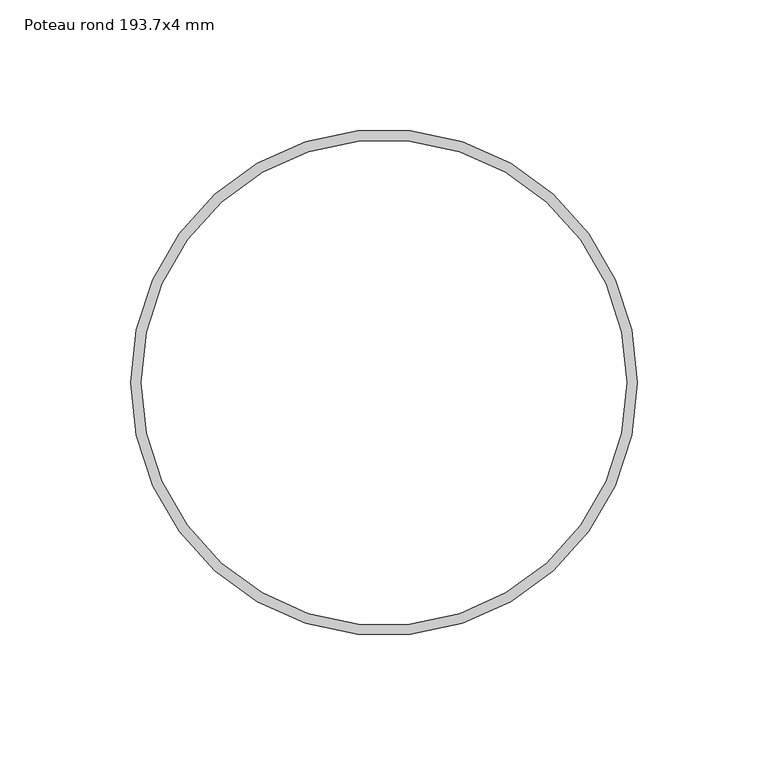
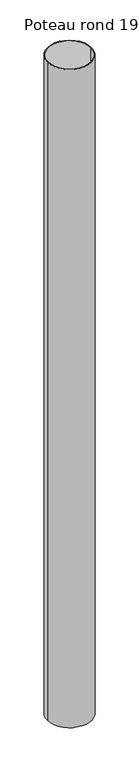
"""IFC4 building model written with IfcOpenShell, lengths in millimetres: column geometry, Poteau RO (EN 10219-2) : Poteau rond 193.7x4 mm."""

from ifc_helpers import new_model, si_unit, point, frame, origin, origin_2d, place, context, project, spatial, circle_curve, trimmed, segment, composite_curve, outline, extrude, source, transform, mapped, element, save


def poteau_rond_193_7x4_mm_9448209f(model_context):
    return source(origin(), model_context, "Body", "SweptSolid", [
        extrude(outline(composite_curve([segment(trimmed(circle_curve(origin_2d(), 96.85), [point((-96.85, 0.0))], [point((96.85, 0.0))], False, "CARTESIAN"), True, "CONTINUOUS"), segment(trimmed(circle_curve(origin_2d(), 96.85), [point((96.85, 0.0))], [point((-96.85, 0.0))], False, "CARTESIAN"), True, "CONTINUOUS")], self_intersect=False), holes=[composite_curve([segment(trimmed(circle_curve(origin_2d(), 92.85), [point((-92.85, 0.0))], [point((92.85, 0.0))], True, "CARTESIAN"), True, "CONTINUOUS"), segment(trimmed(circle_curve(origin_2d(), 92.85), [point((92.85, 0.0))], [point((-92.85, 0.0))], True, "CARTESIAN"), True, "CONTINUOUS")], self_intersect=False)]), frame((0.0, 0.0, 869500.0), z_axis=(0.0, 0.0, 1.0), x_axis=(1.0, 0.0, 0.0)), (0.0, 0.0, 1.0), 3048.9281867),
    ])


if __name__ == "__main__":
    model = new_model("IFC4")
    model_context = context("Model", 3, world=origin())
    ifc_project = project(units=[si_unit("LENGTHUNIT", "METRE", prefix="MILLI")], contexts=[model_context])
    site = spatial("IfcSite", under=ifc_project)
    building = spatial("IfcBuilding", under=site)
    placement = place(None, origin())
    poteau_rond_193_7x4_mm_shape = poteau_rond_193_7x4_mm_9448209f(model_context)
    element("IfcColumn", 1, ObjectType="Poteau RO (EN 10219-2) : Poteau rond 193.7x4 mm", at=placement, inside=building, context=model_context, shape_type="MappedRepresentation", body=[
        mapped(poteau_rond_193_7x4_mm_shape, transform((0.0, 0.0, 0.0), x_axis=(1.0, 0.0, 0.0), y_axis=(0.0, 1.0, 0.0), z_axis=(0.0, 0.0, 1.0))),
    ])
    save(model, "model.ifc")
